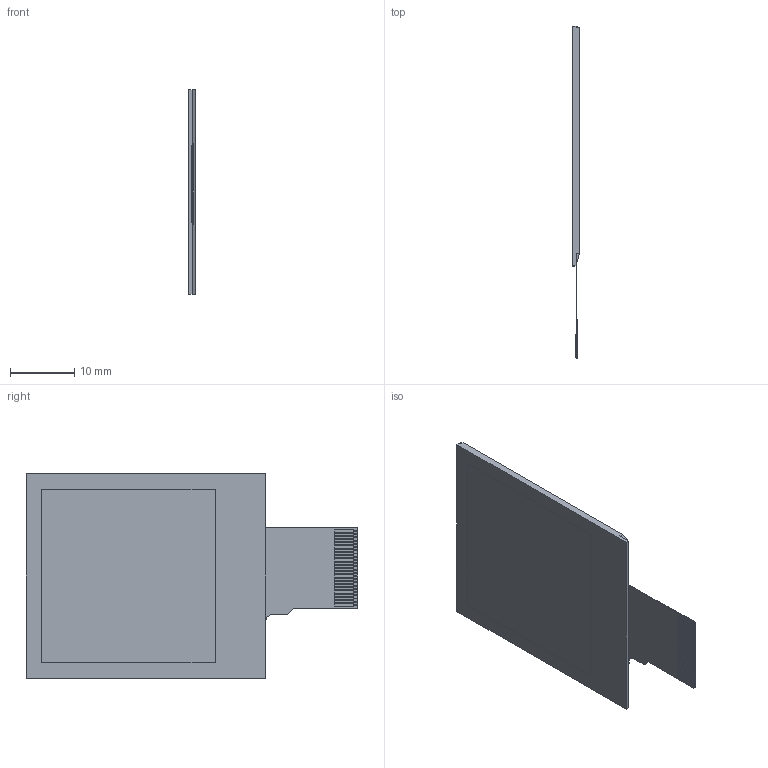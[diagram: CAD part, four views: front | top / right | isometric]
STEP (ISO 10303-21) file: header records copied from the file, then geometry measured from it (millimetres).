
FILE_DESCRIPTION (( 'STEP AP214' ), '1' );
FILE_NAME ('CFAP200200A3-0154.STEP', '2020-09-24T15:39:17', ( '' ), ( '' ), 'SwSTEP 2.0', 'SolidWorks 2020', '' );
FILE_SCHEMA (( 'AUTOMOTIVE_DESIGN' ));
Length unit declared in the file: millimetre
Products named in the file (1): CFAP200200A3-0154
Bounding box: 1.05 x 51.62 x 31.8 mm (x, y, z)
Volume: 1261 mm3; surface area: 3288 mm2
Topology: 5 solids, 5 shells, 254 faces, 661 edges, 442 vertices
Faces by surface type: plane 253, cylinder 1
Entity records: 10263 total; most frequent: CARTESIAN_POINT 1358, ORIENTED_EDGE 1322, DIRECTION 1173, EDGE_CURVE 661, LINE 659, VECTOR 659, VERTEX_POINT 442, EDGE_LOOP 279
